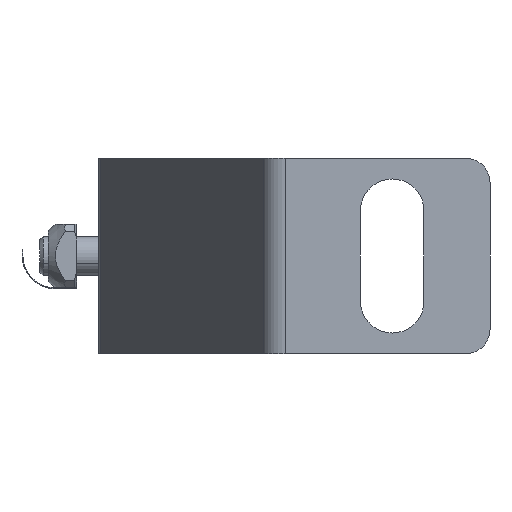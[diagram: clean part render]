
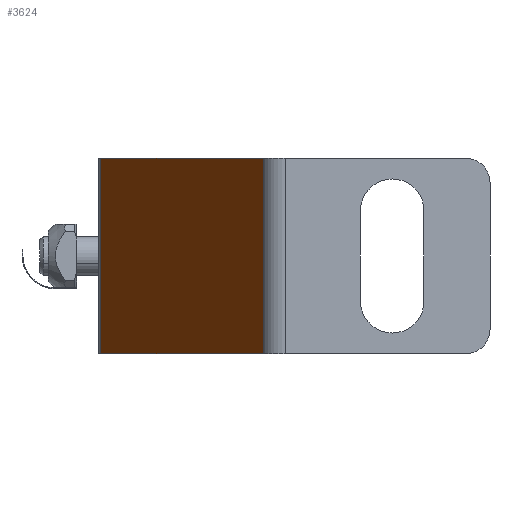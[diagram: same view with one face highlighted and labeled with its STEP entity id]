
A CAD part, front view. The second image highlights one B-rep face of the part: STEP entity #3624.
In plain terms, the highlighted planar face has unit normal (-0.906, -0.423, 0).
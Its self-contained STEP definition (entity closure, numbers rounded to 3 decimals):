
#51 = VERTEX_POINT ( 'NONE', #1266 ) ;
#90 = VERTEX_POINT ( 'NONE', #289 ) ;
#289 = CARTESIAN_POINT ( 'NONE',  ( 649.297, 807.662, 1283.473 ) ) ;
#464 = PLANE ( 'NONE',  #4815 ) ;
#542 = DIRECTION ( 'NONE',  ( 0.423, -0.906, 0. ) ) ;
#874 = VERTEX_POINT ( 'NONE', #5901 ) ;
#940 = DIRECTION ( 'NONE',  ( -0.423, 0.906, 0. ) ) ;
#1002 = EDGE_LOOP ( 'NONE', ( #2465, #5254, #1575, #1301 ) ) ;
#1144 = DIRECTION ( 'NONE',  ( 0., 0., -1. ) ) ;
#1266 = CARTESIAN_POINT ( 'NONE',  ( 616.043, 878.975, 1283.473 ) ) ;
#1301 = ORIENTED_EDGE ( 'NONE', *, *, #6595, .F. ) ;
#1575 = ORIENTED_EDGE ( 'NONE', *, *, #2643, .T. ) ;
#1692 = VERTEX_POINT ( 'NONE', #4753 ) ;
#1738 = DIRECTION ( 'NONE',  ( 0., 0., 1. ) ) ;
#2138 = LINE ( 'NONE', #3153, #5714 ) ;
#2280 = CARTESIAN_POINT ( 'NONE',  ( 616.043, 878.975, 1283.473 ) ) ;
#2465 = ORIENTED_EDGE ( 'NONE', *, *, #5040, .F. ) ;
#2643 = EDGE_CURVE ( 'NONE', #874, #90, #3355, .T. ) ;
#2757 = CARTESIAN_POINT ( 'NONE',  ( 583.713, 948.307, 1283.473 ) ) ;
#3153 = CARTESIAN_POINT ( 'NONE',  ( 583.713, 948.307, 1243.473 ) ) ;
#3347 = DIRECTION ( 'NONE',  ( -0.906, -0.423, 0. ) ) ;
#3355 = LINE ( 'NONE', #6563, #3779 ) ;
#3624 = ADVANCED_FACE ( 'NONE', ( #5388 ), #464, .T. ) ;
#3779 = VECTOR ( 'NONE', #5538, 1000. ) ;
#3932 = LINE ( 'NONE', #2280, #5199 ) ;
#4753 = CARTESIAN_POINT ( 'NONE',  ( 616.043, 878.975, 1243.473 ) ) ;
#4815 = AXIS2_PLACEMENT_3D ( 'NONE', #2757, #3347, #1144 ) ;
#4828 = VECTOR ( 'NONE', #542, 1000. ) ;
#5040 = EDGE_CURVE ( 'NONE', #1692, #51, #3932, .T. ) ;
#5199 = VECTOR ( 'NONE', #1738, 1000. ) ;
#5254 = ORIENTED_EDGE ( 'NONE', *, *, #6470, .F. ) ;
#5388 = FACE_OUTER_BOUND ( 'NONE', #1002, .T. ) ;
#5403 = CARTESIAN_POINT ( 'NONE',  ( 583.713, 948.307, 1283.473 ) ) ;
#5538 = DIRECTION ( 'NONE',  ( 0., 0., 1. ) ) ;
#5714 = VECTOR ( 'NONE', #940, 1000. ) ;
#5901 = CARTESIAN_POINT ( 'NONE',  ( 649.297, 807.662, 1243.473 ) ) ;
#6470 = EDGE_CURVE ( 'NONE', #874, #1692, #2138, .T. ) ;
#6563 = CARTESIAN_POINT ( 'NONE',  ( 649.297, 807.662, 1283.473 ) ) ;
#6595 = EDGE_CURVE ( 'NONE', #51, #90, #6988, .T. ) ;
#6988 = LINE ( 'NONE', #5403, #4828 ) ;
